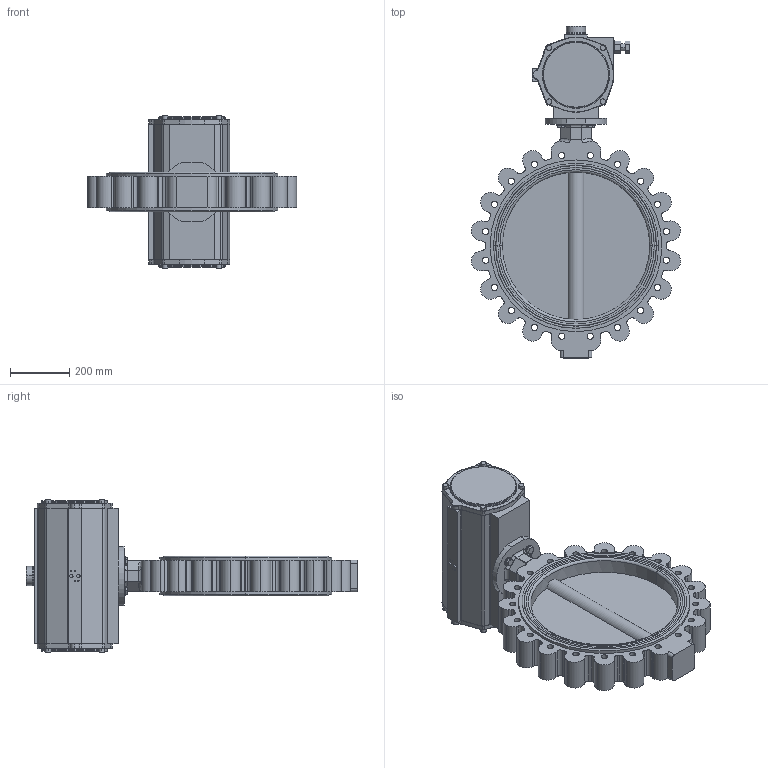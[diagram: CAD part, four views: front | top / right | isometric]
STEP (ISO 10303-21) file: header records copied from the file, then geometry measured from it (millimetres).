
FILE_DESCRIPTION (( 'STEP AP214' ), '1' );
FILE_NAME ('67722.step', '2020-10-26T07:28:30', ( '' ), ( '' ), 'SwSTEP 2.0', 'SolidWorks 2019', '' );
FILE_SCHEMA (( 'AUTOMOTIVE_DESIGN' ));
Length unit declared in the file: millimetre
Products named in the file (6): TL20-0500_M01; DA2100-V46_01; U-Scheibe DIN 125 A_M16; 67722; Achtkantreduktion 46-36 mm; 6kt-Schr DIN 933_M16x45
Assembly tree (11 placements, depth 2):
  67722
    TL20-0500_M01
    DA2100-V46_01
    6kt-Schr DIN 933_M16x45  x4
    U-Scheibe DIN 125 A_M16  x4
    Achtkantreduktion 46-36 mm
Bounding box: 708.99 x 1125 x 516 mm (x, y, z)
Volume: 54826585.9 mm3; surface area: 2262732.2 mm2
Topology: 12 solids, 12 shells, 766 faces, 1929 edges, 1240 vertices
Faces by surface type: cylinder 366, plane 311, torus 44, cone 37, bspline 8
Entity records: 23910 total; most frequent: CARTESIAN_POINT 4545, DIRECTION 3781, ORIENTED_EDGE 3450, EDGE_CURVE 1725, AXIS2_PLACEMENT_3D 1448, VERTEX_POINT 1120, LINE 885, VECTOR 885
